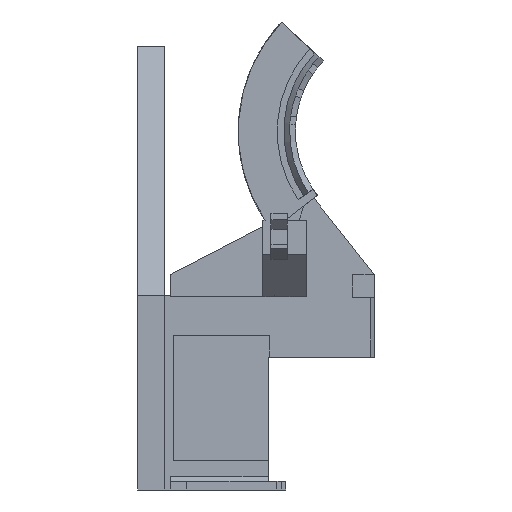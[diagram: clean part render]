
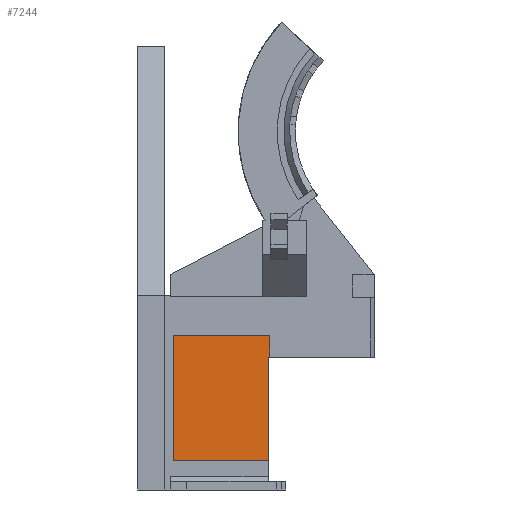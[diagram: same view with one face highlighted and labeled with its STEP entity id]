
A CAD part, front view. The second image highlights one B-rep face of the part: STEP entity #7244.
In plain terms, the highlighted planar face has unit normal (0, -1, 0).
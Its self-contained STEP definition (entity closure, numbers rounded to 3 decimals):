
#492 = PLANE('',#493);
#493 = AXIS2_PLACEMENT_3D('',#494,#495,#496);
#494 = CARTESIAN_POINT('',(24.,38.65,0.6));
#495 = DIRECTION('',(-1.,0.,0.));
#496 = DIRECTION('',(0.,0.,1.));
#1570 = VERTEX_POINT('',#1571);
#1571 = CARTESIAN_POINT('',(24.,36.05,6.));
#1585 = PLANE('',#1586);
#1586 = AXIS2_PLACEMENT_3D('',#1587,#1588,#1589);
#1587 = CARTESIAN_POINT('',(5.75,35.05,6.));
#1588 = DIRECTION('',(0.,0.,1.));
#1589 = DIRECTION('',(1.,0.,-0.));
#1596 = EDGE_CURVE('',#1597,#1570,#1599,.T.);
#1597 = VERTEX_POINT('',#1598);
#1598 = CARTESIAN_POINT('',(24.,36.05,25.));
#1599 = SURFACE_CURVE('',#1600,(#1604,#1611),.PCURVE_S1.);
#1600 = LINE('',#1601,#1602);
#1601 = CARTESIAN_POINT('',(24.,36.05,3.3));
#1602 = VECTOR('',#1603,1.);
#1603 = DIRECTION('',(0.,0.,-1.));
#1604 = PCURVE('',#492,#1605);
#1605 = DEFINITIONAL_REPRESENTATION('',(#1606),#1610);
#1606 = LINE('',#1607,#1608);
#1607 = CARTESIAN_POINT('',(2.7,-2.6));
#1608 = VECTOR('',#1609,1.);
#1609 = DIRECTION('',(-1.,0.));
#1610 = ( GEOMETRIC_REPRESENTATION_CONTEXT(2) 
PARAMETRIC_REPRESENTATION_CONTEXT() REPRESENTATION_CONTEXT('2D SPACE',''
  ) );
#1611 = PCURVE('',#1612,#1617);
#1612 = PLANE('',#1613);
#1613 = AXIS2_PLACEMENT_3D('',#1614,#1615,#1616);
#1614 = CARTESIAN_POINT('',(5.75,36.05,6.));
#1615 = DIRECTION('',(-0.,1.,0.));
#1616 = DIRECTION('',(0.,0.,1.));
#1617 = DEFINITIONAL_REPRESENTATION('',(#1618),#1621);
#1618 = B_SPLINE_CURVE_WITH_KNOTS('',1,(#1619,#1620),.UNSPECIFIED.,.F.,
  .F.,(2,2),(-21.7,-2.7),.PIECEWISE_BEZIER_KNOTS.);
#1619 = CARTESIAN_POINT('',(19.,18.25));
#1620 = CARTESIAN_POINT('',(0.,18.25));
#1621 = ( GEOMETRIC_REPRESENTATION_CONTEXT(2) 
PARAMETRIC_REPRESENTATION_CONTEXT() REPRESENTATION_CONTEXT('2D SPACE',''
  ) );
#1637 = PLANE('',#1638);
#1638 = AXIS2_PLACEMENT_3D('',#1639,#1640,#1641);
#1639 = CARTESIAN_POINT('',(24.,38.65,25.));
#1640 = DIRECTION('',(-0.,0.,1.));
#1641 = DIRECTION('',(1.,0.,0.));
#6966 = PLANE('',#6967);
#6967 = AXIS2_PLACEMENT_3D('',#6968,#6969,#6970);
#6968 = CARTESIAN_POINT('',(24.25,35.05,6.));
#6969 = DIRECTION('',(1.,0.,-0.));
#6970 = DIRECTION('',(0.,0.,1.));
#6993 = PLANE('',#6994);
#6994 = AXIS2_PLACEMENT_3D('',#6995,#6996,#6997);
#6995 = CARTESIAN_POINT('',(5.75,35.05,29.));
#6996 = DIRECTION('',(0.,0.,1.));
#6997 = DIRECTION('',(1.,0.,-0.));
#7020 = PLANE('',#7021);
#7021 = AXIS2_PLACEMENT_3D('',#7022,#7023,#7024);
#7022 = CARTESIAN_POINT('',(6.5,35.15,0.6));
#7023 = DIRECTION('',(1.,0.,-0.));
#7024 = DIRECTION('',(0.,0.,1.));
#7152 = EDGE_CURVE('',#7153,#1597,#7155,.T.);
#7153 = VERTEX_POINT('',#7154);
#7154 = CARTESIAN_POINT('',(24.25,36.05,25.));
#7155 = SURFACE_CURVE('',#7156,(#7160,#7167),.PCURVE_S1.);
#7156 = LINE('',#7157,#7158);
#7157 = CARTESIAN_POINT('',(14.875,36.05,25.));
#7158 = VECTOR('',#7159,1.);
#7159 = DIRECTION('',(-1.,0.,0.));
#7160 = PCURVE('',#1637,#7161);
#7161 = DEFINITIONAL_REPRESENTATION('',(#7162),#7166);
#7162 = LINE('',#7163,#7164);
#7163 = CARTESIAN_POINT('',(-9.125,-2.6));
#7164 = VECTOR('',#7165,1.);
#7165 = DIRECTION('',(-1.,0.));
#7166 = ( GEOMETRIC_REPRESENTATION_CONTEXT(2) 
PARAMETRIC_REPRESENTATION_CONTEXT() REPRESENTATION_CONTEXT('2D SPACE',''
  ) );
#7167 = PCURVE('',#1612,#7168);
#7168 = DEFINITIONAL_REPRESENTATION('',(#7169),#7172);
#7169 = B_SPLINE_CURVE_WITH_KNOTS('',1,(#7170,#7171),.UNSPECIFIED.,.F.,
  .F.,(2,2),(-9.375,-9.125),.PIECEWISE_BEZIER_KNOTS.);
#7170 = CARTESIAN_POINT('',(19.,18.5));
#7171 = CARTESIAN_POINT('',(19.,18.25));
#7172 = ( GEOMETRIC_REPRESENTATION_CONTEXT(2) 
PARAMETRIC_REPRESENTATION_CONTEXT() REPRESENTATION_CONTEXT('2D SPACE',''
  ) );
#7244 = ADVANCED_FACE('',(#7245),#1612,.F.);
#7245 = FACE_BOUND('',#7246,.F.);
#7246 = EDGE_LOOP('',(#7247,#7270,#7291,#7314,#7335,#7336));
#7247 = ORIENTED_EDGE('',*,*,#7248,.F.);
#7248 = EDGE_CURVE('',#7249,#1570,#7251,.T.);
#7249 = VERTEX_POINT('',#7250);
#7250 = CARTESIAN_POINT('',(6.5,36.05,6.));
#7251 = SURFACE_CURVE('',#7252,(#7256,#7263),.PCURVE_S1.);
#7252 = LINE('',#7253,#7254);
#7253 = CARTESIAN_POINT('',(5.75,36.05,6.));
#7254 = VECTOR('',#7255,1.);
#7255 = DIRECTION('',(1.,0.,-0.));
#7256 = PCURVE('',#1612,#7257);
#7257 = DEFINITIONAL_REPRESENTATION('',(#7258),#7262);
#7258 = LINE('',#7259,#7260);
#7259 = CARTESIAN_POINT('',(0.,0.));
#7260 = VECTOR('',#7261,1.);
#7261 = DIRECTION('',(0.,1.));
#7262 = ( GEOMETRIC_REPRESENTATION_CONTEXT(2) 
PARAMETRIC_REPRESENTATION_CONTEXT() REPRESENTATION_CONTEXT('2D SPACE',''
  ) );
#7263 = PCURVE('',#1585,#7264);
#7264 = DEFINITIONAL_REPRESENTATION('',(#7265),#7269);
#7265 = LINE('',#7266,#7267);
#7266 = CARTESIAN_POINT('',(0.,1.));
#7267 = VECTOR('',#7268,1.);
#7268 = DIRECTION('',(1.,0.));
#7269 = ( GEOMETRIC_REPRESENTATION_CONTEXT(2) 
PARAMETRIC_REPRESENTATION_CONTEXT() REPRESENTATION_CONTEXT('2D SPACE',''
  ) );
#7270 = ORIENTED_EDGE('',*,*,#7271,.F.);
#7271 = EDGE_CURVE('',#7272,#7249,#7274,.T.);
#7272 = VERTEX_POINT('',#7273);
#7273 = CARTESIAN_POINT('',(6.5,36.05,29.));
#7274 = SURFACE_CURVE('',#7275,(#7279,#7285),.PCURVE_S1.);
#7275 = LINE('',#7276,#7277);
#7276 = CARTESIAN_POINT('',(6.5,36.05,3.3));
#7277 = VECTOR('',#7278,1.);
#7278 = DIRECTION('',(-0.,0.,-1.));
#7279 = PCURVE('',#1612,#7280);
#7280 = DEFINITIONAL_REPRESENTATION('',(#7281),#7284);
#7281 = B_SPLINE_CURVE_WITH_KNOTS('',1,(#7282,#7283),.UNSPECIFIED.,.F.,
  .F.,(2,2),(-25.7,-2.7),.PIECEWISE_BEZIER_KNOTS.);
#7282 = CARTESIAN_POINT('',(23.,0.75));
#7283 = CARTESIAN_POINT('',(0.,0.75));
#7284 = ( GEOMETRIC_REPRESENTATION_CONTEXT(2) 
PARAMETRIC_REPRESENTATION_CONTEXT() REPRESENTATION_CONTEXT('2D SPACE',''
  ) );
#7285 = PCURVE('',#7020,#7286);
#7286 = DEFINITIONAL_REPRESENTATION('',(#7287),#7290);
#7287 = B_SPLINE_CURVE_WITH_KNOTS('',1,(#7288,#7289),.UNSPECIFIED.,.F.,
  .F.,(2,2),(-25.7,-2.7),.PIECEWISE_BEZIER_KNOTS.);
#7288 = CARTESIAN_POINT('',(28.4,-0.9));
#7289 = CARTESIAN_POINT('',(5.4,-0.9));
#7290 = ( GEOMETRIC_REPRESENTATION_CONTEXT(2) 
PARAMETRIC_REPRESENTATION_CONTEXT() REPRESENTATION_CONTEXT('2D SPACE',''
  ) );
#7291 = ORIENTED_EDGE('',*,*,#7292,.T.);
#7292 = EDGE_CURVE('',#7272,#7293,#7295,.T.);
#7293 = VERTEX_POINT('',#7294);
#7294 = CARTESIAN_POINT('',(24.25,36.05,29.));
#7295 = SURFACE_CURVE('',#7296,(#7300,#7307),.PCURVE_S1.);
#7296 = LINE('',#7297,#7298);
#7297 = CARTESIAN_POINT('',(5.75,36.05,29.));
#7298 = VECTOR('',#7299,1.);
#7299 = DIRECTION('',(1.,0.,-0.));
#7300 = PCURVE('',#1612,#7301);
#7301 = DEFINITIONAL_REPRESENTATION('',(#7302),#7306);
#7302 = LINE('',#7303,#7304);
#7303 = CARTESIAN_POINT('',(23.,0.));
#7304 = VECTOR('',#7305,1.);
#7305 = DIRECTION('',(0.,1.));
#7306 = ( GEOMETRIC_REPRESENTATION_CONTEXT(2) 
PARAMETRIC_REPRESENTATION_CONTEXT() REPRESENTATION_CONTEXT('2D SPACE',''
  ) );
#7307 = PCURVE('',#6993,#7308);
#7308 = DEFINITIONAL_REPRESENTATION('',(#7309),#7313);
#7309 = LINE('',#7310,#7311);
#7310 = CARTESIAN_POINT('',(0.,1.));
#7311 = VECTOR('',#7312,1.);
#7312 = DIRECTION('',(1.,0.));
#7313 = ( GEOMETRIC_REPRESENTATION_CONTEXT(2) 
PARAMETRIC_REPRESENTATION_CONTEXT() REPRESENTATION_CONTEXT('2D SPACE',''
  ) );
#7314 = ORIENTED_EDGE('',*,*,#7315,.F.);
#7315 = EDGE_CURVE('',#7153,#7293,#7316,.T.);
#7316 = SURFACE_CURVE('',#7317,(#7321,#7328),.PCURVE_S1.);
#7317 = LINE('',#7318,#7319);
#7318 = CARTESIAN_POINT('',(24.25,36.05,6.));
#7319 = VECTOR('',#7320,1.);
#7320 = DIRECTION('',(0.,0.,1.));
#7321 = PCURVE('',#1612,#7322);
#7322 = DEFINITIONAL_REPRESENTATION('',(#7323),#7327);
#7323 = LINE('',#7324,#7325);
#7324 = CARTESIAN_POINT('',(0.,18.5));
#7325 = VECTOR('',#7326,1.);
#7326 = DIRECTION('',(1.,0.));
#7327 = ( GEOMETRIC_REPRESENTATION_CONTEXT(2) 
PARAMETRIC_REPRESENTATION_CONTEXT() REPRESENTATION_CONTEXT('2D SPACE',''
  ) );
#7328 = PCURVE('',#6966,#7329);
#7329 = DEFINITIONAL_REPRESENTATION('',(#7330),#7334);
#7330 = LINE('',#7331,#7332);
#7331 = CARTESIAN_POINT('',(0.,-1.));
#7332 = VECTOR('',#7333,1.);
#7333 = DIRECTION('',(1.,0.));
#7334 = ( GEOMETRIC_REPRESENTATION_CONTEXT(2) 
PARAMETRIC_REPRESENTATION_CONTEXT() REPRESENTATION_CONTEXT('2D SPACE',''
  ) );
#7335 = ORIENTED_EDGE('',*,*,#7152,.T.);
#7336 = ORIENTED_EDGE('',*,*,#1596,.T.);
